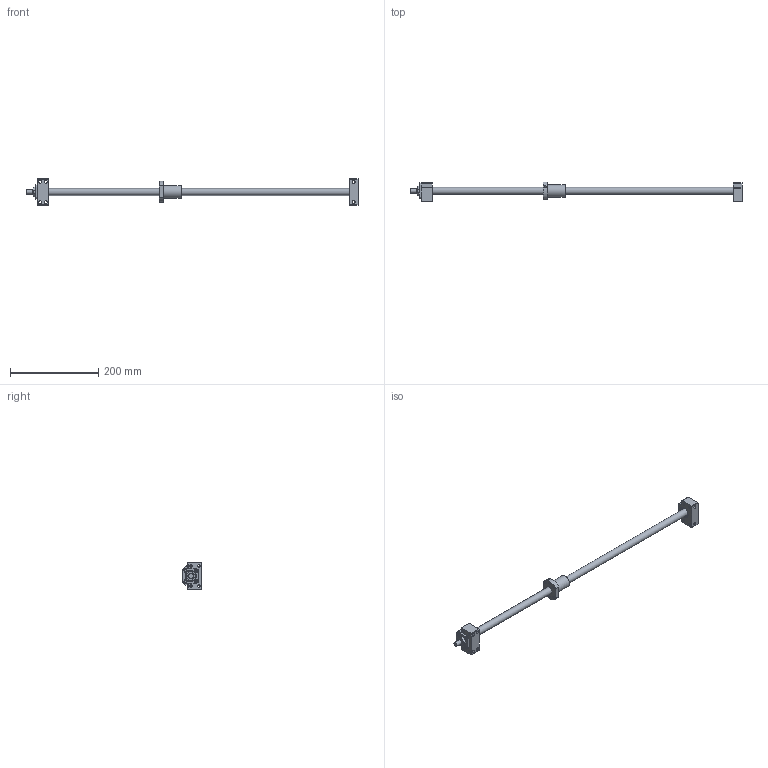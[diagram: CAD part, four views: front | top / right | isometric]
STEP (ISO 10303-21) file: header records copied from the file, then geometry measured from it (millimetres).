
FILE_DESCRIPTION(/* description */ ('','CAx-IF Rec.Pracs.---Representation and Presentation of Product Manufacturing Information (PMI)---4.0---2014-10-13'),/* implementation_level */ '2;1');
FILE_NAME(/* name */ 'F2RFU-1605-0750-BK12-BF12ASM v1.step',/* time_stamp */ '2024-12-17T10:38:53-05:00',/* author */ (''),/* organization */ (''),/* preprocessor_version */ 'ST-DEVELOPER v20',/* originating_system */ 'Autodesk Translation Framework v13.20.0.188',/* authorisation */ '');
FILE_SCHEMA (('AP242_MANAGED_MODEL_BASED_3D_ENGINEERING_MIM_LF { 1 0 10303 442 1 1 4 }'));
Length unit declared in the file: millimetre
Products named in the file (12): F2RFU-1605-0750-BK12-BF12ASM; 16xx_750; Screw16; BF12EndMach; BK12EndMach; BF12; BF 12 Part1; BF 12 Part2; BK12Yes; BK 12; BK 12collar; 16 x 5 Ball Nut
Assembly tree (11 placements, depth 3):
  F2RFU-1605-0750-BK12-BF12ASM
    16xx_750
      Screw16
      BF12EndMach
      BK12EndMach
    BF12
      BF 12 Part1
      BF 12 Part2
    BK12Yes
      BK 12
      BK 12collar
    16 x 5 Ball Nut
Bounding box: 753 x 45.16 x 60 mm (x, y, z)
Volume: 263782.1 mm3; surface area: 82039 mm2
Topology: 8 solids, 9 shells, 243 faces, 628 edges, 423 vertices
Faces by surface type: plane 133, cylinder 86, cone 19, torus 5
Full cylindrical faces by diameter (mm): 3 x2, 5 x1, 5.5 x26, 6 x4, 6.6 x6, 7 x4, 9.6 x1, 10 x4, 10.376 x1, 11 x6, 11.884 x1, 12 x2, 15 x5, 16 x1, 16.2 x1, 17 x1, 18.5 x2, 20.9 x2, 24 x2, 24.1 x1, 26 x2, 28 x1
Entity records: 8905 total; most frequent: CARTESIAN_POINT 2516, ORIENTED_EDGE 1256, DIRECTION 1241, EDGE_CURVE 628, AXIS2_PLACEMENT_3D 457, VERTEX_POINT 423, EDGE_LOOP 339, LINE 327
